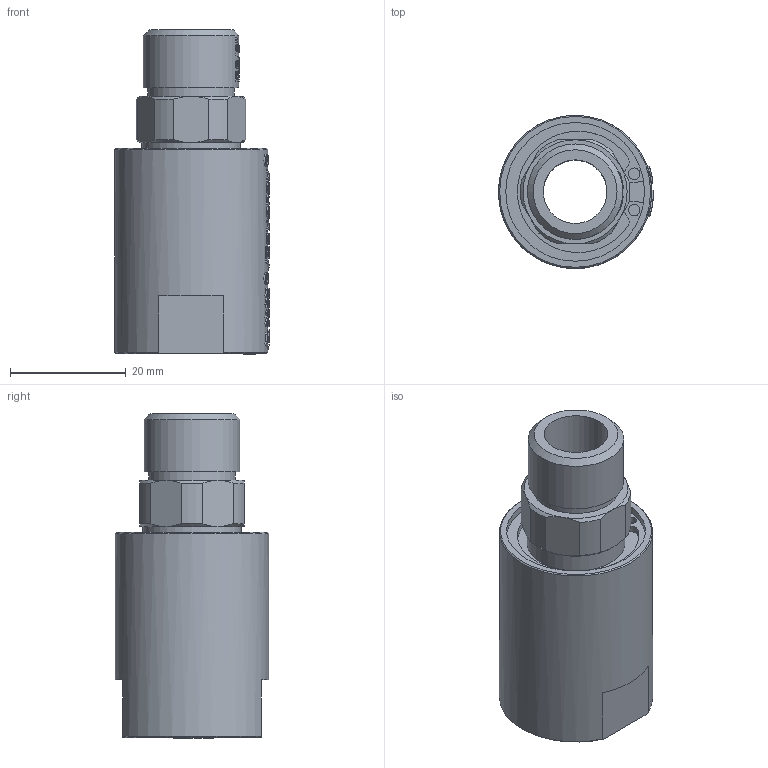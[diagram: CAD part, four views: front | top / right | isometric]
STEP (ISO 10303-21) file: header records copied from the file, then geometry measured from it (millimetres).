
FILE_DESCRIPTION(/* description */ (''),/* implementation_level */ '2;1');
FILE_NAME(/* name */ 'YQK0103(RH)-3D模型.stp',/* time_stamp */ '2025-07-08T15:38:43+08:00',/* author */ (''),/* organization */ (''),/* preprocessor_version */ 'ST-DEVELOPER v16.7',/* originating_system */ 'SIEMENS PLM Software NX 12.0',/* authorisation */ '');
FILE_SCHEMA (('AUTOMOTIVE_DESIGN { 1 0 10303 214 3 1 1 1 }'));
Products named in the file (1): Admi1E18C0B724kq
Bounding box: 26.8 x 26.5 x 56.1 mm (x, y, z)
Volume: 17403 mm3; surface area: 7689.7 mm2
Topology: 1 solids, 1 shells, 1146 faces, 3173 edges, 2111 vertices
Faces by surface type: extrusion 717, plane 316, bspline 49, cylinder 47, cone 17
Full cylindrical faces by diameter (mm): 2 x2, 11 x1, 15 x2, 16.5 x1, 17 x1, 24 x1, 25.2 x1, 26.5 x1
Entity records: 47722 total; most frequent: CARTESIAN_POINT 24119, ORIENTED_EDGE 6300, B_SPLINE_CURVE_WITH_KNOTS 3443, EDGE_CURVE 3150, VERTEX_POINT 2103, DIRECTION 1947, EDGE_LOOP 1245, ADVANCED_FACE 1146
